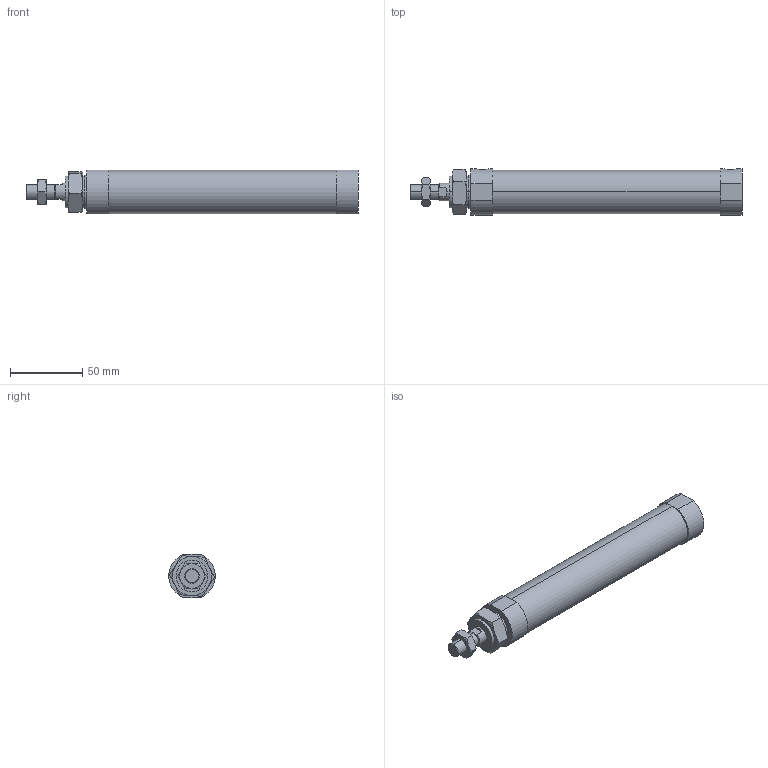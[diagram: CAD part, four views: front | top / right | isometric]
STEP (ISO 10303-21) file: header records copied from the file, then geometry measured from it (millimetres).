
FILE_DESCRIPTION (( 'STEP AP203' ), '1' );
FILE_NAME ('JGND2-25-125-N.STEP', '2016-08-04T02:41:37', ( '' ), ( '' ), 'SwSTEP 2.0', 'SolidWorks 2014', '' );
FILE_SCHEMA (( 'CONFIG_CONTROL_DESIGN' ));
Length unit declared in the file: millimetre
Products named in the file (4): J#2-25-125(P); JGND2-25-125-N
Assembly tree (3 placements, depth 2):
  JGND2-25-125-N
    J#2-25-125(P)
    (unnamed)
    (unnamed)
Bounding box: 229 x 32 x 30 mm (x, y, z)
Volume: 144237.3 mm3; surface area: 25702.5 mm2
Topology: 3 solids, 3 shells, 89 faces, 198 edges, 116 vertices
Faces by surface type: plane 35, torus 24, cylinder 22, cone 8
Entity records: 3150 total; most frequent: CARTESIAN_POINT 845, DIRECTION 400, ORIENTED_EDGE 388, EDGE_CURVE 194, AXIS2_PLACEMENT_3D 167, VERTEX_POINT 116, EDGE_LOOP 98, FACE_OUTER_BOUND 89
